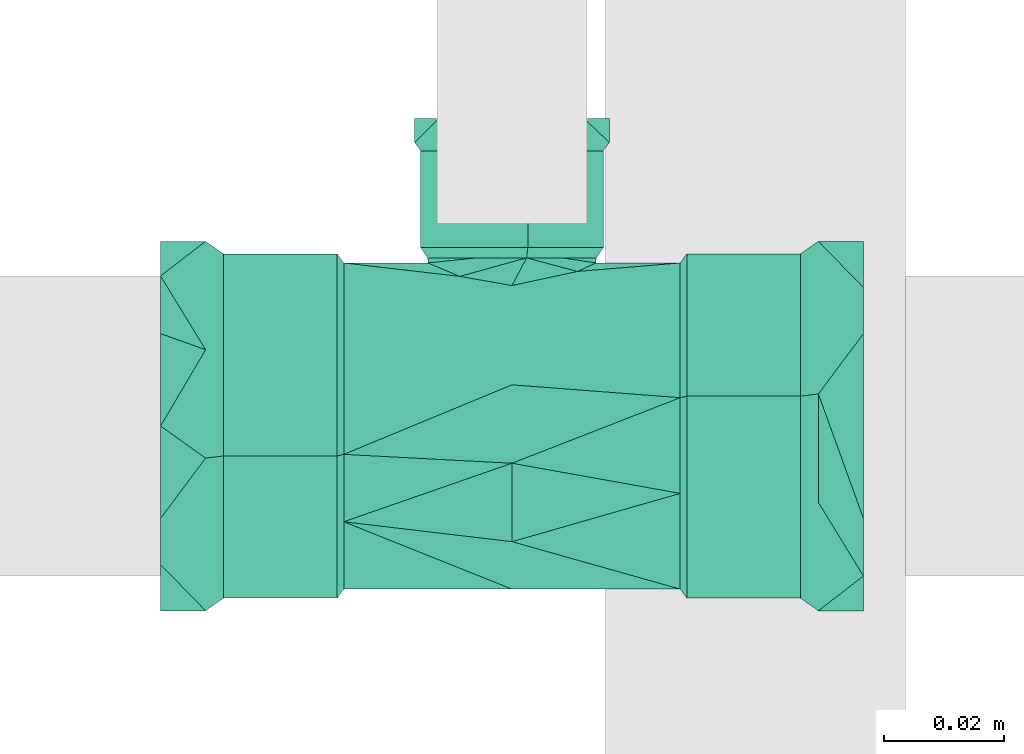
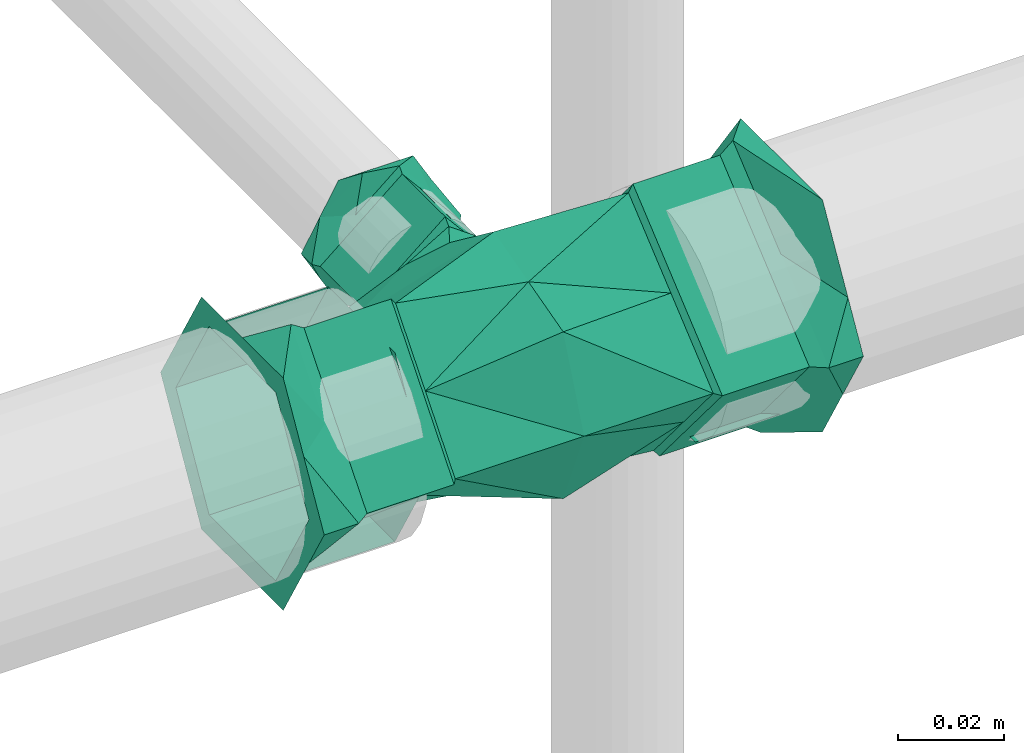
# One storey, part 136 of 589: 1 flow fitting.
"""IFC2X3 building model written with IfcOpenShell, lengths in millimetres."""

from ifc_helpers import new_model, entity, si_unit, converted_unit, derived_unit, direction, frame, origin, place, context, subcontext, project, spatial, faceted_brep, source, transform, mapped, material, type_object, type_shapes, element, save


model = new_model("IFC2X3")

# Units and contexts
model_context = context("Model", 3, precision=0.01, world=origin(), true_north=direction((6.123031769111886e-17, 1.0)))
body_context = subcontext(model_context, "Body", "Model", "MODEL_VIEW")
ifc_project = project(units=[si_unit("LENGTHUNIT", "METRE", prefix="MILLI"), si_unit("AREAUNIT", "SQUARE_METRE"), si_unit("VOLUMEUNIT", "CUBIC_METRE"), converted_unit("PLANEANGLEUNIT", "DEGREE", entity("IfcRatioMeasure", 0.017453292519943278), si_unit("PLANEANGLEUNIT", "RADIAN"), dimensions=[0, 0, 0, 0, 0, 0, 0]), si_unit("MASSUNIT", "GRAM", prefix="KILO"), derived_unit("MASSDENSITYUNIT", [(si_unit("MASSUNIT", "GRAM", prefix="KILO"), 1), (si_unit("LENGTHUNIT", "METRE"), -3)]), derived_unit("IONCONCENTRATIONUNIT", [(si_unit("MASSUNIT", "GRAM", prefix="KILO"), 1), (si_unit("LENGTHUNIT", "METRE"), -3)]), derived_unit("MOMENTOFINERTIAUNIT", [(si_unit("LENGTHUNIT", "METRE"), 4)]), si_unit("TIMEUNIT", "SECOND"), si_unit("FREQUENCYUNIT", "HERTZ"), si_unit("THERMODYNAMICTEMPERATUREUNIT", "DEGREE_CELSIUS"), derived_unit("THERMALTRANSMITTANCEUNIT", [(si_unit("MASSUNIT", "GRAM", prefix="KILO"), 1), (si_unit("THERMODYNAMICTEMPERATUREUNIT", "KELVIN"), -1), (si_unit("TIMEUNIT", "SECOND"), -3)]), derived_unit("THERMALCONDUCTANCEUNIT", [(si_unit("MASSUNIT", "GRAM", prefix="KILO"), 1), (si_unit("THERMODYNAMICTEMPERATUREUNIT", "KELVIN"), -1), (si_unit("TIMEUNIT", "SECOND"), -3), (si_unit("LENGTHUNIT", "METRE"), 1)]), derived_unit("VOLUMETRICFLOWRATEUNIT", [(si_unit("LENGTHUNIT", "METRE"), 3), (si_unit("TIMEUNIT", "SECOND"), -1)]), derived_unit("MASSFLOWRATEUNIT", [(si_unit("MASSUNIT", "GRAM", prefix="KILO"), 1), (si_unit("TIMEUNIT", "SECOND"), -1)]), derived_unit("ROTATIONALFREQUENCYUNIT", [(si_unit("TIMEUNIT", "SECOND"), -1)]), si_unit("ELECTRICCURRENTUNIT", "AMPERE"), si_unit("ELECTRICVOLTAGEUNIT", "VOLT"), si_unit("POWERUNIT", "WATT"), si_unit("FORCEUNIT", "NEWTON", prefix="KILO"), si_unit("ILLUMINANCEUNIT", "LUX"), si_unit("LUMINOUSFLUXUNIT", "LUMEN"), si_unit("LUMINOUSINTENSITYUNIT", "CANDELA"), derived_unit("USERDEFINED", [(si_unit("MASSUNIT", "GRAM", prefix="KILO"), -1), (si_unit("LENGTHUNIT", "METRE"), -2), (si_unit("TIMEUNIT", "SECOND"), 3), (si_unit("LUMINOUSFLUXUNIT", "LUMEN"), 1)]), derived_unit("USERDEFINED", [(si_unit("MASSUNIT", "GRAM", prefix="KILO"), 1), (si_unit("TIMEUNIT", "SECOND"), -3), (si_unit("LENGTHUNIT", "METRE"), 3), (si_unit("ELECTRICCURRENTUNIT", "AMPERE"), -2)]), derived_unit("SOUNDPOWERUNIT", [(si_unit("MASSUNIT", "GRAM", prefix="KILO"), 1), (si_unit("TIMEUNIT", "SECOND"), -3), (si_unit("LENGTHUNIT", "METRE"), 2)]), derived_unit("SOUNDPRESSUREUNIT", [(si_unit("MASSUNIT", "GRAM", prefix="KILO"), 1), (si_unit("LENGTHUNIT", "METRE"), -1), (si_unit("TIMEUNIT", "SECOND"), -2)]), derived_unit("LINEARVELOCITYUNIT", [(si_unit("LENGTHUNIT", "METRE"), 1), (si_unit("TIMEUNIT", "SECOND"), -1)]), si_unit("PRESSUREUNIT", "PASCAL"), derived_unit("USERDEFINED", [(si_unit("MASSUNIT", "GRAM", prefix="KILO"), 1), (si_unit("LENGTHUNIT", "METRE"), -2), (si_unit("TIMEUNIT", "SECOND"), -2)]), derived_unit("LINEARFORCEUNIT", [(si_unit("MASSUNIT", "GRAM", prefix="KILO"), 1), (si_unit("TIMEUNIT", "SECOND"), -2)]), derived_unit("PLANARFORCEUNIT", [(si_unit("MASSUNIT", "GRAM", prefix="KILO"), 1), (si_unit("LENGTHUNIT", "METRE"), -1), (si_unit("TIMEUNIT", "SECOND"), -2)]), derived_unit("SPECIFICHEATCAPACITYUNIT", [(si_unit("THERMODYNAMICTEMPERATUREUNIT", "KELVIN"), -1), (si_unit("LENGTHUNIT", "METRE"), 2), (si_unit("TIMEUNIT", "SECOND"), -2)]), derived_unit("HEATINGVALUEUNIT", [(si_unit("LENGTHUNIT", "METRE"), 2), (si_unit("TIMEUNIT", "SECOND"), -2)]), derived_unit("VAPORPERMEABILITYUNIT", [(si_unit("LENGTHUNIT", "METRE"), -1), (si_unit("TIMEUNIT", "SECOND"), 1)]), derived_unit("DYNAMICVISCOSITYUNIT", [(si_unit("MASSUNIT", "GRAM", prefix="KILO"), 1), (si_unit("TIMEUNIT", "SECOND"), -1), (si_unit("LENGTHUNIT", "METRE"), -1)]), derived_unit("THERMALEXPANSIONCOEFFICIENTUNIT", [(si_unit("THERMODYNAMICTEMPERATUREUNIT", "KELVIN"), -1)]), derived_unit("MODULUSOFELASTICITYUNIT", [(si_unit("MASSUNIT", "GRAM", prefix="KILO"), 1), (si_unit("LENGTHUNIT", "METRE"), -1), (si_unit("TIMEUNIT", "SECOND"), -2)]), derived_unit("ISOTHERMALMOISTURECAPACITYUNIT", [(si_unit("LENGTHUNIT", "METRE"), 3), (si_unit("MASSUNIT", "GRAM", prefix="KILO"), -1)]), derived_unit("MOISTUREDIFFUSIVITYUNIT", [(si_unit("TIMEUNIT", "SECOND"), -1), (si_unit("LENGTHUNIT", "METRE"), 2)])], contexts=[model_context])

# Site, building, storey
site_placement = place(None, origin())
site = spatial("IfcSite", under=ifc_project, at=site_placement, Name="Default", CompositionType="ELEMENT")
building_placement = place(site_placement, origin())
building = spatial("IfcBuilding", under=site, at=building_placement, CompositionType="ELEMENT")
storey_placement = place(building_placement, frame((0.0, 0.0, 100.0)))
storey = spatial("IfcBuildingStorey", under=building, at=storey_placement, Name="TÉRREO", CompositionType="ELEMENT", Elevation=100.0)

# Flow fitting
ifc_material = material(Name="PVC Marrom")
pipe_fitting_type = type_object("IfcPipeFittingType", Name="PVC Marrom Soldável_Tê e Tê de Reducão_Rodrigo MEP:Tê", PredefinedType="NOTDEFINED", material=ifc_material)
shared_shape = source(origin(), body_context, "Body", "Brep", [
    faceted_brep([(8.099999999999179, -51.19999999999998, -14.029611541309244), (12.500000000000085, -51.19999999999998, 0.0), (6.249999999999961, -51.199999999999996, -10.82531754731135), (12.006116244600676, -51.19999999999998, -7.26401974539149), (-6.250000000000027, -51.20000000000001, -10.825317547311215), (0.0, -51.2, -14.02961154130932), (16.20000000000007, -51.199999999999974, 0.0), (6.250000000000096, -51.199999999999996, 10.825317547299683), (12.15000000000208, -51.19999999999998, 7.014805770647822), (8.10000000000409, -51.19999999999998, 14.029611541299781), (-6.249999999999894, -51.20000000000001, 10.825317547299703), (0.0, -51.2, 14.02961154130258), (-8.09999999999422, -51.20000000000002, 14.029611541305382), (-12.00611625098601, -51.20000000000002, 7.2640197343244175), (-16.199999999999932, -51.200000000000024, 0.0), (-12.499999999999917, -51.20000000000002, 0.0), (-12.149999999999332, -51.20000000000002, -7.014805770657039), (-8.099999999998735, -51.20000000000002, -14.0296115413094), (-9.505660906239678, -47.19999999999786, 7.977099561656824), (-2.81132181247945, -47.19999999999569, 15.95419912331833), (4.194176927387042, -48.95626714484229, 15.647647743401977), (-16.199999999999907, -47.200000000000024, 0.0), (16.200000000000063, -47.199999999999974, 0.0), (6.694339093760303, -47.19999999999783, 7.977099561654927), (10.200288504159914, -47.19999999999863, 5.034925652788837), (1.941508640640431, -47.1999999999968, 11.965649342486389), (9.50766188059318, -47.19999999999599, -7.976746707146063), (2.8153237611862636, -47.19999999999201, -15.953493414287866), (-4.191233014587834, -48.95635467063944, -15.648436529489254), (-6.692338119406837, -47.199999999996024, -7.97674670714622), (-10.19988795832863, -47.199999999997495, -5.033979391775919), (-1.938507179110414, -47.199999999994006, -11.965120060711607), (-6.250000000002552, -47.2, -10.825317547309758), (-9.37499999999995, -47.20000000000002, -5.412658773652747), (-12.499999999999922, -47.20000000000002, 0.0), (-8.816048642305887, -45.80000000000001, -6.380790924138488), (-6.249999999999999, -45.80000000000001, -10.82531754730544), (-6.249999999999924, -33.7, -10.825317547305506), (-12.499999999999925, -45.80000000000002, 0.0), (-12.499999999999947, -33.70000000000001, 0.0), (0.0, -47.199999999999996, -10.82531754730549), (6.250000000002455, -47.19999999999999, -10.825317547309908), (6.249999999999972, -45.8, -10.825317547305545), (0.0, -45.800000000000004, -10.825317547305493), (6.250000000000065, -33.699999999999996, -10.825317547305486), (12.50000000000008, -47.19999999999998, 0.0), (8.816048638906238, -47.19999999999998, -6.380790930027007), (9.375000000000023, -45.8, -5.4126587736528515), (12.500000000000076, -45.799999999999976, 0.0), (12.500000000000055, -33.69999999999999, 0.0), (6.249999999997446, -47.19999999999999, 10.825317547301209), (9.37500000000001, -47.19999999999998, 5.4126587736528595), (8.81604864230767, -45.8, 6.380790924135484), (6.249999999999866, -45.8, 10.825317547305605), (6.2499999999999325, -33.699999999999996, 10.825317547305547), (0.0, -47.199999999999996, 10.82531754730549), (-6.2499999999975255, -47.2, 10.82531754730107), (-6.250000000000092, -45.80000000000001, 10.825317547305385), (0.0, -45.800000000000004, 10.825317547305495), (-6.250000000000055, -33.7, 10.825317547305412), (-8.816048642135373, -47.20000000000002, 6.380790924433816), (-9.375000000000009, -45.80000000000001, 5.412658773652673), (-9.570641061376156, -45.79999999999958, -4.724127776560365), (2.6377834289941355, -45.799999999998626, -14.96937201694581), (15.200000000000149, -45.799999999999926, 0.0), (-15.199999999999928, -45.800000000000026, 0.0), (-9.79862070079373, -45.79999999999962, -4.5328084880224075), (8.918891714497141, -45.79999999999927, -7.484686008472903), (-3.941282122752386, -45.799999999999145, -9.44825555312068), (-4.397241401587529, -45.79999999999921, -9.065616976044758), (10.739615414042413, -45.80000000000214, 3.7421774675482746), (6.279230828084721, -45.80000000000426, 7.484354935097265), (1.8188462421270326, -45.80000000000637, 11.226532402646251), (-2.641538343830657, -45.80000000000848, 14.96870987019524), (-6.443631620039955, -45.80000000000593, 10.436910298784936), (-8.920769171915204, -45.800000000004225, 7.484354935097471), (-10.245724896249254, -45.80000000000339, 5.9051107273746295), (-8.918891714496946, -29.700000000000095, 7.4846860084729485), (9.798620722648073, -29.70000000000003, 4.532808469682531), (6.281108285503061, -29.700000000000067, 7.484686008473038), (4.3972414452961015, -29.70000000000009, 9.065616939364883), (-15.199999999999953, -29.700000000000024, 0.0), (-2.637783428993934, -29.70000000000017, 14.96937201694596), (15.200000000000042, -29.699999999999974, 0.0), (8.920769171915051, -29.699999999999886, -7.484354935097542), (2.6415383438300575, -29.699999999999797, -14.968709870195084), (-6.279230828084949, -29.699999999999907, -7.484354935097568), (-8.651615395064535, -28.0, -4.521903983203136), (-5.801761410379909, -28.0, -6.91348643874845), (-3.263230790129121, -28.0, -9.043807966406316), (-14.039999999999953, -28.0, 0.0), (2.436477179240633, -28.0, -13.826972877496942), (8.238238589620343, -28.0, -6.913486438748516), (14.040000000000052, -28.0, 0.0), (5.800025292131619, -28.0, 6.913180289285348), (-2.439949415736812, -28.0, 13.826360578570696), (-9.297801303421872, -28.0, 5.652333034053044), (-8.239974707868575, -28.0, 6.913180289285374), (-13.993250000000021, -27.149999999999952, 0.0), (-8.698026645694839, -24.90789224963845, -10.803675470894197), (0.0, -23.389258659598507, -13.786409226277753), (13.993249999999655, -27.149999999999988, 0.0), (10.886120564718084, -25.729354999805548, -8.667340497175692), (8.698026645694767, -24.907892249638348, 10.803675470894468), (0.0, -23.389258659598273, 13.786409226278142), (-10.886120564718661, -25.729354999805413, 8.667340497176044), (-32.59999999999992, -25.0, 0.0), (-32.59999999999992, -19.790106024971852, 9.023801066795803), (-32.59999999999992, -12.500000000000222, 21.650635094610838), (-32.59999999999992, 0.0, 21.65063509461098), (-32.59999999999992, 12.499999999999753, 21.65063509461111), (-32.59999999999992, 18.749999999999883, 10.825317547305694), (-32.59999999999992, 25.0, 0.0), (-32.59999999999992, 19.790105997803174, -9.023801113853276), (-32.59999999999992, 12.500000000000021, -21.65063509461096), (-32.59999999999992, 0.0, -21.65063509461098), (-32.59999999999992, -12.49999999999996, -21.650635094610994), (-32.59999999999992, -18.749999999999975, -10.825317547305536), (-48.0, -12.500000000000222, 21.650635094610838), (-48.0, -18.750000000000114, 10.825317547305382), (-58.50000000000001, -18.75000000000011, 10.82531754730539), (-58.50000000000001, -12.500000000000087, 21.650635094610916), (-48.0, -19.790106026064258, 9.02380106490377), (-48.0, -25.0, 0.0), (-58.50000000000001, -25.0, 0.0), (32.60000000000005, -25.0, 0.0), (32.60000000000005, -18.74999999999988, 10.825317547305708), (32.60000000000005, -12.499999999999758, 21.65063509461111), (58.5, -12.499999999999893, 21.650635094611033), (58.500000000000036, -19.97114481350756, 8.71023268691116), (58.5, -25.0, 0.0), (-48.0, 0.0, 21.650635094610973), (-48.0, 12.499999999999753, 21.65063509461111), (-58.50000000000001, 0.0, 21.650635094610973), (-58.50000000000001, 12.499999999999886, 21.650635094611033), (32.60000000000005, 0.0, 21.650635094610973), (32.60000000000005, 12.500000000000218, 21.650635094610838), (58.5, 12.500000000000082, 21.650635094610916), (58.5, 0.0, 21.650635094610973), (-48.0, 19.790106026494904, 9.023801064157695), (-48.0, 25.0, 0.0), (-48.0, 18.749999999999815, 10.825317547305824), (-58.49999999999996, 19.79010602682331, 9.023801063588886), (-58.50000000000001, 25.0, 0.0), (32.60000000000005, 19.97114481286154, 8.71023268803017), (32.60000000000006, 25.0, 0.0), (58.5, 25.0, 0.0), (58.5, 18.75000000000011, 10.825317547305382), (-48.0, 12.49999999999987, -21.650635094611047), (-48.0, 18.749999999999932, -10.825317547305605), (-58.50000000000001, 18.749999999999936, -10.825317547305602), (-58.50000000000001, 12.499999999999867, -21.650635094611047), (-48.0, 19.790106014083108, -9.023801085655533), (32.60000000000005, 18.749999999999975, -10.82531754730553), (32.60000000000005, 12.499999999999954, -21.650635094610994), (58.5, 12.5000000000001, -21.650635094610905), (58.500000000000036, 19.97114481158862, -8.710232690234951), (-48.0, 0.0, -21.65063509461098), (-48.0, -12.50000000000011, -21.650635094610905), (-58.50000000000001, 0.0, -21.65063509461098), (-58.50000000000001, -12.500000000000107, -21.650635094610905), (32.60000000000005, 0.0, -21.65063509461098), (32.60000000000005, -12.500000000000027, -21.65063509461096), (58.5, -12.499999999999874, -21.650635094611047), (58.5, 0.0, -21.65063509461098), (-48.0, -19.790106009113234, -9.02380109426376), (-48.0, -18.75000000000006, -10.825317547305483), (-58.49999999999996, -19.79010602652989, -9.023801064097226), (32.60000000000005, -19.971144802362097, -8.710232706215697), (58.5, -18.749999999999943, -10.825317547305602), (-28.0, 15.934137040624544, -13.368436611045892), (0.0, 27.15, 0.0), (0.0, 19.249777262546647, -19.145980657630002), (0.0, 6.194218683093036, -22.707339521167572), (-28.0, 20.511742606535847, -7.912286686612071), (-28.0, 27.15, 0.0), (0.0, -6.861339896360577, -26.268698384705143), (-28.0, 4.718274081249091, -26.73687322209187), (-28.0, -27.15, 0.0), (-28.0, -19.18293147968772, -6.684218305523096), (-28.0, -11.215862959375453, -13.368436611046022), (-28.0, -3.2487944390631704, -20.052654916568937), (-28.0, 10.326205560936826, -20.052654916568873), (-28.0, -15.930783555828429, 13.369027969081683), (0.0, -6.86133989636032, 26.268698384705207), (-28.0, -4.711567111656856, 26.738055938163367), (-28.0, -10.32117533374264, 20.053541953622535), (0.0, 19.24977726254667, 19.145980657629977), (-28.0, 19.60719441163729, 6.329881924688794), (-28.0, 11.219216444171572, 13.369027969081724), (0.0, 6.194218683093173, 22.707339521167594), (-28.0, 3.2538246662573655, 20.05354195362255), (-28.0, -20.510950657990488, 7.911215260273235), (-29.099999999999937, 16.81093734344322, -14.107648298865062), (-29.099999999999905, 10.891406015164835, -21.16147244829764), (-29.099999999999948, -12.730929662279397, -13.359198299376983), (-29.099999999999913, -3.8795274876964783, -20.787247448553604), (-29.099999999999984, -20.690464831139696, -6.679599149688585), (-29.099999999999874, 4.97187468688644, -28.215296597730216), (-29.1, 28.650000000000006, 0.0), (-29.099999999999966, 22.730468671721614, -7.053824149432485), (-29.09999999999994, -11.83906265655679, -14.107648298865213), (-29.100000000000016, -28.649999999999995, 0.0), (-29.100000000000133, -9.809464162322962, 22.456453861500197), (-29.100000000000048, -21.64498805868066, 8.349429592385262), (-29.10000000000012, 3.4282858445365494, 21.160536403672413), (-29.10000000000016, -4.978952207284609, 28.21404853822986), (-29.100000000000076, 11.835523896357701, 14.107024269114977), (-29.10000000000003, 20.242761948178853, 7.053512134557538), (-29.100000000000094, -14.639976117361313, 16.698859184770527), (-29.10000000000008, -16.814476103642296, 14.107024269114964), (-48.0, -4.978952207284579, 28.214048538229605), (-48.0, 28.650000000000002, 0.0), (-48.0, 12.939627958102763, 13.18070205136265), (-48.0, 11.835523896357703, 14.107024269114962), (-48.0, -16.81447610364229, 14.107024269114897), (-48.0, -28.650000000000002, 0.0), (-48.0, 4.971874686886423, -28.215296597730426), (-48.0, -12.94067667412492, -13.183179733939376), (-48.0, -11.839062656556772, -14.107648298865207), (-48.0, 16.81093734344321, -14.107648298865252), (-51.0, 16.175349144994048, -17.370576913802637), (-51.0, 18.04585747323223, -15.141239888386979), (-51.0, 30.75, 0.0), (-51.0, -12.704142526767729, -15.141239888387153), (-51.0, 5.341714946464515, -30.282479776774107), (-51.0, -30.74999999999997, 0.0), (-51.0, -5.3380546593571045, 30.283125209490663), (-51.0, -18.044027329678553, 15.141562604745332), (-51.0, 4.425812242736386, 22.08982117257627), (-51.0, 14.189679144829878, 13.896517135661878), (-51.0, 12.705972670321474, 15.141562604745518), (-58.50000000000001, -15.375000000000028, -26.63028116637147), (-58.500000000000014, -24.971948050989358, -10.007879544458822), (-58.50000000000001, 0.0, -26.6302811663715), (-58.50000000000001, -30.75, 0.0), (-58.50000000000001, -23.06249999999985, 13.315140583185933), (-58.50000000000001, -15.374999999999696, 26.630281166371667), (-58.50000000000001, 0.0, 26.6302811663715), (-58.50000000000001, 15.375000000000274, 26.63028116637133), (-58.500000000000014, 24.97194806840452, 10.007879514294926), (-58.50000000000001, 30.75, 0.0), (-58.50000000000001, 23.062499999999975, -13.315140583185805), (-58.50000000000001, 15.374999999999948, -26.630281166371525), (51.0, 30.749999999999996, 0.0), (58.5, 23.06249999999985, 13.315140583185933), (58.5, 30.75, 0.0), (51.0, -30.749999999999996, 0.0), (58.5, -30.75, 0.0), (58.5, -24.97194806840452, 10.007879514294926), (58.5, -23.062499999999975, -13.315140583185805), (58.5, 24.971948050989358, -10.007879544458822), (28.0, -15.934137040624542, -13.36843661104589), (28.0, -27.15, 0.0), (28.0, -4.718274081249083, -26.736873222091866), (28.0, -10.326205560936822, -20.05265491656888), (28.0, 27.15, 0.0), (28.0, 19.182931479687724, -6.6842183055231), (28.0, 11.215862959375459, -13.368436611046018), (28.0, 3.248794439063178, -20.052654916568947), (28.0, -20.511742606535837, -7.912286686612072), (28.0, 15.930783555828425, 13.369027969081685), (28.0, 20.51095065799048, 7.9112152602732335), (28.0, 4.711567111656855, 26.73805593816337), (28.0, -19.607194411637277, 6.329881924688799), (28.0, -11.21921644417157, 13.36902796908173), (28.0, -3.2538246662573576, 20.05354195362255), (28.0, 10.321175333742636, 20.053541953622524), (29.099999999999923, -16.81093734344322, -14.107648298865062), (29.09999999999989, -10.891406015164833, -21.16147244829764), (29.099999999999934, 12.730929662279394, -13.359198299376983), (29.09999999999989, 3.879527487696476, -20.787247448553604), (29.099999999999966, 20.690464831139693, -6.679599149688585), (29.099999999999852, -4.971874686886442, -28.215296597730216), (29.1, -28.650000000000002, 0.0), (29.099999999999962, -22.73046867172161, -7.053824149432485), (29.099999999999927, 11.83906265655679, -14.107648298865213), (29.1, 28.64999999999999, 0.0), (29.10000000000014, 9.809464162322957, 22.45645386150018), (29.10000000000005, 21.644988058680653, 8.349429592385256), (29.100000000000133, -3.4282858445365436, 21.160536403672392), (29.100000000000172, 4.978952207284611, 28.214048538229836), (29.100000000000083, -11.83552389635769, 14.107024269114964), (29.100000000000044, -20.242761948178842, 7.053512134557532), (29.1000000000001, 14.639976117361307, 16.69885918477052), (29.10000000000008, 16.814476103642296, 14.107024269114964), (48.0, 4.978952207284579, 28.214048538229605), (48.0, -28.650000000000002, 0.0), (48.0, -12.939627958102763, 13.18070205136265), (48.0, -11.835523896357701, 14.107024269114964), (48.0, 16.81447610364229, 14.107024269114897), (48.0, 28.650000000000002, 0.0), (48.0, -4.971874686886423, -28.215296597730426), (48.0, 12.94067667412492, -13.183179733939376), (48.0, 11.83906265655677, -14.107648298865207), (48.0, -16.81093734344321, -14.107648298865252), (51.0, -16.174511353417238, -17.369443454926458), (51.0, -18.044027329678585, -15.141562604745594), (51.0, 12.70597267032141, -15.141562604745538), (51.0, -5.33805465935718, -30.283125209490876), (51.0, 5.341714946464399, 30.28247977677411), (51.0, 18.045857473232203, 15.141239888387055), (51.0, -4.423715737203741, 22.088869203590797), (51.0, -14.189146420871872, 13.895258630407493), (51.0, -12.70414252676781, 15.141239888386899), (58.5, 15.375000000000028, -26.63028116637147), (58.5, 0.0, -26.6302811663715), (58.5, 15.374999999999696, 26.630281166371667), (58.5, 0.0, 26.6302811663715), (58.5, -15.375000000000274, 26.63028116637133), (58.5, -15.374999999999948, -26.630281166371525)], [[[0, 1, 2]], [[1, 0, 3]], [[0, 2, 4]], [[4, 5, 0]], [[1, 3, 6]], [[7, 1, 6]], [[7, 6, 8]], [[7, 8, 9]], [[7, 9, 10]], [[10, 9, 11]], [[10, 11, 12]], [[10, 12, 13]], [[10, 13, 14]], [[14, 15, 10]], [[15, 14, 16]], [[15, 16, 17]], [[17, 4, 15]], [[4, 17, 5]], [[18, 12, 19]], [[12, 20, 19]], [[18, 21, 13]], [[21, 14, 13]], [[22, 8, 6]], [[20, 8, 23]], [[8, 22, 24, 23]], [[20, 23, 25, 19]], [[20, 12, 11, 9]], [[8, 20, 9]], [[12, 18, 13]], [[26, 0, 27]], [[0, 28, 27]], [[26, 22, 3]], [[22, 6, 3]], [[21, 16, 14]], [[28, 16, 29]], [[16, 21, 30, 29]], [[28, 29, 31, 27]], [[28, 0, 5, 17]], [[16, 28, 17]], [[0, 26, 3]], [[4, 32, 33]], [[4, 33, 34]], [[34, 15, 4]], [[33, 32, 35]], [[36, 35, 32]], [[37, 35, 36]], [[37, 38, 35]], [[38, 37, 39]], [[38, 34, 33]], [[33, 35, 38]], [[4, 2, 32]], [[2, 40, 32]], [[2, 41, 40]], [[42, 40, 41]], [[43, 40, 42]], [[44, 43, 42]], [[44, 36, 43]], [[44, 37, 36]], [[43, 36, 32]], [[32, 40, 43]], [[1, 45, 46]], [[1, 46, 41]], [[41, 2, 1]], [[47, 46, 45]], [[45, 48, 47]], [[49, 47, 48]], [[49, 42, 47]], [[42, 49, 44]], [[41, 46, 42]], [[47, 42, 46]], [[7, 50, 51]], [[7, 51, 45]], [[45, 1, 7]], [[51, 50, 52]], [[53, 52, 50]], [[54, 52, 53]], [[54, 48, 52]], [[48, 54, 49]], [[48, 45, 51]], [[51, 52, 48]], [[7, 10, 50]], [[10, 55, 50]], [[10, 56, 55]], [[57, 55, 56]], [[58, 55, 57]], [[59, 58, 57]], [[59, 53, 58]], [[59, 54, 53]], [[58, 53, 50]], [[50, 55, 58]], [[15, 34, 60]], [[15, 60, 56]], [[56, 10, 15]], [[61, 60, 34]], [[34, 38, 61]], [[39, 61, 38]], [[39, 57, 61]], [[57, 39, 59]], [[56, 60, 57]], [[61, 57, 60]], [[30, 62, 29]], [[31, 63, 27]], [[22, 26, 64]], [[30, 65, 66, 62]], [[27, 63, 67]], [[67, 26, 27]], [[21, 65, 30]], [[63, 31, 68]], [[64, 26, 67]], [[29, 62, 69, 68]], [[31, 29, 68]], [[22, 64, 70]], [[25, 71, 72]], [[72, 19, 25]], [[71, 25, 23, 24]], [[19, 73, 74]], [[18, 74, 75, 76]], [[24, 70, 71]], [[76, 21, 18]], [[76, 65, 21]], [[22, 70, 24]], [[72, 73, 19]], [[19, 74, 18]], [[77, 75, 74, 73]], [[71, 78, 79, 80]], [[81, 65, 76, 75]], [[78, 71, 70, 64]], [[80, 82, 73]], [[81, 75, 77]], [[73, 82, 77]], [[78, 64, 83]], [[80, 73, 72, 71]], [[64, 84, 83]], [[84, 64, 67]], [[85, 63, 68, 69]], [[66, 65, 81]], [[85, 69, 86]], [[86, 69, 62, 66]], [[63, 85, 67]], [[81, 86, 66]], [[67, 85, 84]], [[81, 87, 86]], [[86, 87, 88, 89]], [[87, 81, 90]], [[85, 89, 91]], [[85, 91, 92]], [[92, 84, 85]], [[93, 84, 92]], [[89, 85, 86]], [[83, 84, 93]], [[93, 79, 78, 83]], [[94, 82, 80, 79]], [[82, 94, 95]], [[95, 77, 82]], [[96, 90, 81]], [[77, 95, 97, 96]], [[96, 81, 77]], [[93, 94, 79]], [[98, 88, 87, 90]], [[98, 99, 88]], [[99, 100, 91]], [[101, 93, 92]], [[99, 91, 89, 88]], [[101, 92, 102]], [[92, 91, 102]], [[102, 91, 100]], [[101, 94, 93]], [[101, 103, 94]], [[103, 104, 95]], [[98, 90, 96, 97]], [[103, 95, 94]], [[98, 97, 105]], [[97, 95, 105]], [[105, 95, 104]], [[39, 37, 44, 49, 54, 59]], [[106, 107, 108, 109, 110, 111, 112, 113, 114, 115, 116, 117]], [[118, 108, 119]], [[120, 118, 119]], [[121, 118, 120]], [[107, 119, 108]], [[107, 122, 119]], [[107, 123, 122]], [[107, 106, 123]], [[122, 123, 124]], [[124, 120, 122]], [[120, 119, 122]], [[125, 126, 127, 128, 129, 130]], [[110, 109, 131]], [[131, 132, 110]], [[131, 109, 118]], [[118, 109, 108]], [[121, 131, 118]], [[133, 131, 121]], [[132, 131, 133]], [[133, 134, 132]], [[127, 135, 136, 137, 138, 128]], [[112, 111, 139]], [[139, 140, 112]], [[111, 141, 139]], [[111, 132, 141]], [[110, 132, 111]], [[132, 134, 141]], [[142, 141, 134]], [[142, 140, 139]], [[142, 143, 140]], [[142, 139, 141]], [[137, 136, 144, 145, 146, 147]], [[148, 114, 149]], [[150, 148, 149]], [[151, 148, 150]], [[113, 149, 114]], [[113, 152, 149]], [[113, 140, 152]], [[113, 112, 140]], [[152, 140, 143]], [[143, 150, 152]], [[150, 149, 152]], [[145, 153, 154, 155, 156, 146]], [[116, 115, 157]], [[157, 158, 116]], [[157, 115, 148]], [[148, 115, 114]], [[151, 157, 148]], [[159, 157, 151]], [[158, 157, 159]], [[159, 160, 158]], [[154, 161, 162, 163, 164, 155]], [[106, 117, 165]], [[165, 123, 106]], [[117, 166, 165]], [[117, 158, 166]], [[116, 158, 117]], [[158, 160, 166]], [[167, 166, 160]], [[167, 123, 165]], [[167, 124, 123]], [[167, 165, 166]], [[163, 162, 168, 125, 130, 169]], [[170, 171, 172]], [[170, 172, 173]], [[171, 170, 174, 175]], [[176, 177, 173]], [[176, 100, 99]], [[99, 178, 179, 180]], [[99, 98, 178]], [[176, 180, 181, 177]], [[173, 177, 182, 170]], [[180, 176, 99]], [[183, 105, 104]], [[178, 98, 105]], [[184, 185, 186, 183]], [[187, 171, 175]], [[187, 175, 188, 189]], [[190, 187, 189]], [[190, 189, 191, 185]], [[105, 183, 192, 178]], [[185, 184, 190]], [[104, 184, 183]], [[170, 182, 193, 174]], [[177, 194, 182]], [[180, 179, 195]], [[181, 180, 196]], [[178, 197, 179]], [[198, 177, 181]], [[199, 175, 200]], [[194, 177, 198]], [[180, 195, 201, 196]], [[198, 181, 196]], [[175, 174, 200]], [[174, 193, 200]], [[197, 178, 202]], [[197, 195, 179]], [[194, 193, 182]], [[185, 203, 186]], [[202, 178, 204]], [[185, 205, 206]], [[207, 189, 208]], [[209, 183, 186]], [[175, 199, 188]], [[191, 207, 205]], [[183, 209, 210, 204]], [[188, 208, 189]], [[207, 191, 189]], [[185, 191, 205]], [[178, 192, 183, 204]], [[188, 199, 208]], [[203, 185, 206]], [[203, 209, 186]], [[211, 206, 205, 207, 208, 199, 212, 213, 214]], [[215, 216, 202, 204, 210, 209, 203, 206, 211]], [[217, 198, 196, 201, 195, 197, 202, 216, 218, 219]], [[220, 212, 199, 200, 193, 194, 198, 217]], [[217, 221, 220]], [[220, 221, 222, 223]], [[217, 224, 225]], [[226, 219, 218, 216]], [[223, 212, 220]], [[221, 217, 225]], [[224, 217, 219]], [[226, 224, 219]], [[211, 227, 228]], [[229, 227, 211]], [[229, 211, 214]], [[228, 215, 211]], [[212, 223, 230]], [[226, 215, 228]], [[214, 230, 231, 229]], [[216, 215, 226]], [[230, 214, 213, 212]], [[232, 124, 167]], [[124, 232, 233]], [[232, 167, 160]], [[232, 160, 159]], [[232, 159, 151]], [[151, 234, 232]], [[124, 233, 235]], [[235, 120, 124]], [[235, 121, 120]], [[121, 235, 236]], [[121, 236, 237]], [[237, 133, 121]], [[237, 134, 133]], [[134, 237, 238]], [[134, 238, 239]], [[134, 239, 240]], [[134, 240, 241]], [[241, 142, 134]], [[241, 143, 142]], [[143, 241, 242]], [[143, 242, 243]], [[243, 151, 150]], [[151, 243, 234]], [[243, 150, 143]], [[231, 240, 239]], [[240, 231, 230, 223]], [[223, 241, 240]], [[244, 245, 246]], [[226, 236, 235]], [[247, 248, 249]], [[227, 237, 228]], [[228, 237, 236]], [[226, 228, 236]], [[227, 239, 238, 237]], [[239, 227, 229, 231]], [[224, 233, 232]], [[224, 226, 233]], [[226, 235, 233]], [[247, 250, 248]], [[223, 242, 241]], [[244, 246, 251]], [[243, 222, 221, 225]], [[222, 243, 242]], [[223, 222, 242]], [[224, 234, 225]], [[225, 234, 243]], [[224, 232, 234]], [[252, 102, 100]], [[253, 101, 102]], [[176, 254, 255, 252]], [[172, 171, 256]], [[172, 256, 257, 258]], [[173, 172, 258]], [[173, 258, 259, 254]], [[102, 252, 260, 253]], [[254, 176, 173]], [[100, 176, 252]], [[261, 171, 187]], [[261, 187, 190]], [[171, 261, 262, 256]], [[184, 263, 190]], [[184, 104, 103]], [[103, 253, 264, 265]], [[103, 101, 253]], [[184, 265, 266, 263]], [[190, 263, 267, 261]], [[265, 184, 103]], [[252, 255, 268, 260]], [[254, 269, 255]], [[258, 257, 270]], [[259, 258, 271]], [[256, 272, 257]], [[273, 254, 259]], [[274, 253, 275]], [[269, 254, 273]], [[258, 270, 276, 271]], [[273, 259, 271]], [[253, 260, 275]], [[260, 268, 275]], [[272, 256, 277]], [[272, 270, 257]], [[269, 268, 255]], [[263, 278, 267]], [[277, 256, 279]], [[263, 280, 281]], [[282, 265, 283]], [[284, 261, 267]], [[253, 274, 264]], [[266, 282, 280]], [[261, 284, 285, 279]], [[264, 283, 265]], [[282, 266, 265]], [[263, 266, 280]], [[256, 262, 261, 279]], [[264, 274, 283]], [[278, 263, 281]], [[278, 284, 267]], [[286, 281, 280, 282, 283, 274, 287, 288, 289]], [[290, 291, 277, 279, 285, 284, 278, 281, 286]], [[292, 273, 271, 276, 270, 272, 277, 291, 293, 294]], [[295, 287, 274, 275, 268, 269, 273, 292]], [[292, 296, 295]], [[295, 296, 297, 247]], [[292, 298, 299]], [[244, 294, 293, 291]], [[247, 287, 295]], [[296, 292, 299]], [[298, 292, 294]], [[244, 298, 294]], [[286, 300, 301]], [[302, 300, 286]], [[302, 286, 289]], [[301, 290, 286]], [[287, 247, 303]], [[244, 290, 301]], [[289, 303, 304, 302]], [[291, 290, 244]], [[303, 289, 288, 287]], [[305, 146, 156]], [[146, 305, 251]], [[305, 156, 155]], [[305, 155, 164]], [[305, 164, 163]], [[163, 306, 305]], [[146, 251, 246]], [[246, 147, 146]], [[246, 137, 147]], [[137, 246, 245]], [[137, 245, 307]], [[307, 138, 137]], [[307, 128, 138]], [[128, 307, 308]], [[128, 308, 309]], [[128, 309, 249]], [[128, 249, 248]], [[248, 129, 128]], [[248, 130, 129]], [[130, 248, 250]], [[130, 250, 310]], [[310, 163, 169]], [[163, 310, 306]], [[310, 169, 130]], [[304, 249, 309]], [[249, 304, 303, 247]], [[300, 307, 301]], [[301, 307, 245]], [[244, 301, 245]], [[308, 300, 302, 304]], [[300, 308, 307]], [[304, 309, 308]], [[298, 251, 305]], [[298, 244, 251]], [[310, 297, 296, 299]], [[297, 310, 250]], [[247, 297, 250]], [[299, 305, 306, 310]], [[299, 298, 305]], [[145, 144, 136, 135, 127, 126, 125, 168, 162, 161, 154, 153]]]),
])
type_shapes(pipe_fitting_type, [shared_shape])
flow_fitting_placement = place(storey_placement, frame((7408.9426853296, -8612.531283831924, 2995.0), z_axis=(0.0, 0.0, -1.0), x_axis=(1.0, 0.0, 0.0)))
element("IfcFlowFitting", 1, at=flow_fitting_placement, inside=storey, type_object=pipe_fitting_type, material=ifc_material, Name="PVC Marrom Soldável_Tê e Tê de Reducão_Rodrigo MEP:Tê", ObjectType="PVC Marrom Soldável_Tê e Tê de Reducão_Rodrigo MEP:Tê", context=body_context, shape_type="MappedRepresentation", body=[
    mapped(shared_shape, transform((0.0, 0.0, 0.0), scale=1.0)),
])

save(model, "model.ifc")
